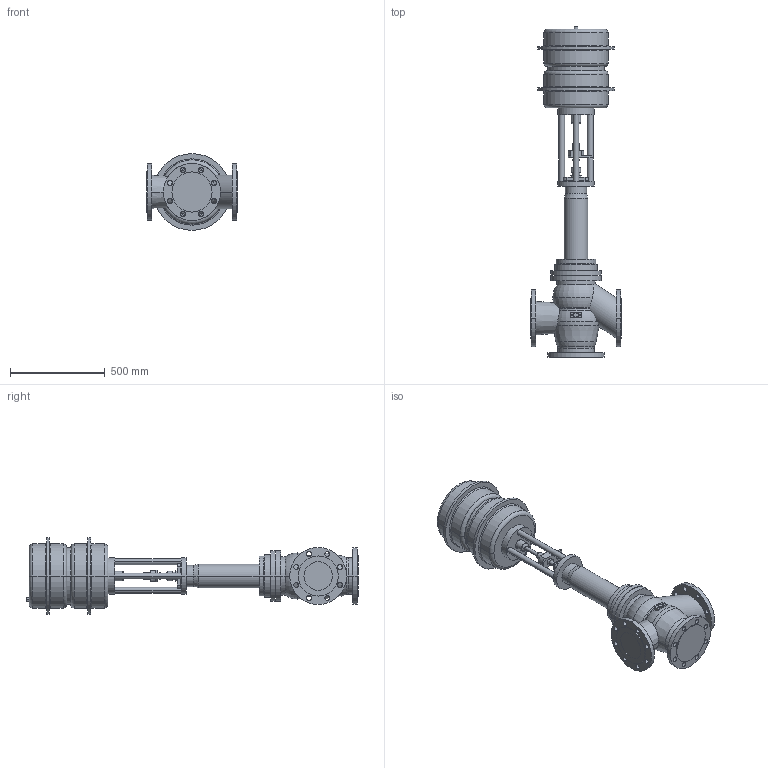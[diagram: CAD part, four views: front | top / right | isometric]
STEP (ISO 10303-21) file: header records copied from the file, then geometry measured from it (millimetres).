
FILE_DESCRIPTION(('OneSpaceDesigner STEP Export'),'2;1');
FILE_NAME('c000002429.stp','2006-09-21T 9:37:38',(''),(''),'OneSpace Designer STEP processor for AP214 (Solid Model)','OneSpace Designer 13.20A 18-Aug-2005 (C) CoCreate Software GmbH','');
FILE_SCHEMA(('AUTOMOTIVE_DESIGN { 1 0 10303 214 1 1 1 1 }'));
Length unit declared in the file: millimetre
Products named in the file (2): 1; 2
Bounding box: 480 x 1751.5 x 405 mm (x, y, z)
Volume: 76729903.1 mm3; surface area: 2260671.2 mm2
Topology: 2 solids, 2 shells, 284 faces, 682 edges, 446 vertices
Faces by surface type: cylinder 148, plane 94, torus 34, cone 8
Entity records: 7495 total; most frequent: CARTESIAN_POINT 1437, ORIENTED_EDGE 1364, DIRECTION 1090, EDGE_CURVE 682, VERTEX_POINT 446, AXIS2_PLACEMENT_3D 407, EDGE_LOOP 376, FACE_OUTER_BOUND 284
